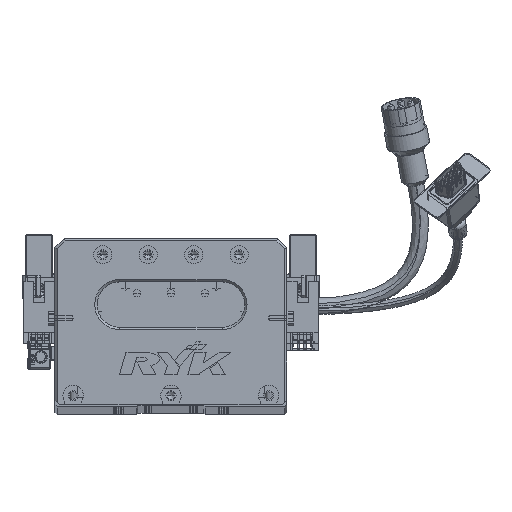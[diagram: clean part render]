
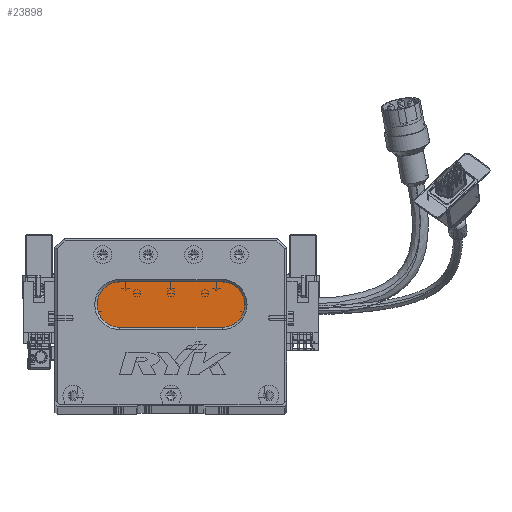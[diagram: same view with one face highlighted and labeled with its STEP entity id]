
A CAD part, top view. The second image highlights one B-rep face of the part: STEP entity #23898.
In plain terms, the highlighted planar face has unit normal (0, 0, 1) as drawn and (0, 0, -1) by its records, which use the part's own axes.
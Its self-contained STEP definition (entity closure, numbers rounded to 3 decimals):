
#3739 = EDGE_CURVE ( 'NONE', #49146, #32350, #29752, .T. ) ;
#6179 = ORIENTED_EDGE ( 'NONE', *, *, #3739, .T. ) ;
#6245 = EDGE_CURVE ( 'NONE', #30905, #29099, #6370, .T. ) ;
#6370 = CIRCLE ( 'NONE', #63617, 10. ) ;
#6638 = ORIENTED_EDGE ( 'NONE', *, *, #6245, .T. ) ;
#7427 = AXIS2_PLACEMENT_3D ( 'NONE', #50648, #68399, #75343 ) ;
#9298 = DIRECTION ( 'NONE',  ( -1., 0., 0. ) ) ;
#9896 = EDGE_CURVE ( 'NONE', #32350, #30905, #28975, .T. ) ;
#11361 = EDGE_CURVE ( 'NONE', #67661, #49146, #59414, .T. ) ;
#11887 = EDGE_LOOP ( 'NONE', ( #36546, #6179, #22422, #6638, #26573 ) ) ;
#15764 = DIRECTION ( 'NONE',  ( 1., 0., 0. ) ) ;
#17783 = FACE_OUTER_BOUND ( 'NONE', #11887, .T. ) ;
#18882 = CARTESIAN_POINT ( 'NONE',  ( 73.5, 44., 13. ) ) ;
#19032 = AXIS2_PLACEMENT_3D ( 'NONE', #18882, #49866, #74013 ) ;
#22422 = ORIENTED_EDGE ( 'NONE', *, *, #9896, .T. ) ;
#23898 = ADVANCED_FACE ( 'NONE', ( #17783 ), #56564, .T. ) ;
#25674 = LINE ( 'NONE', #78162, #72771 ) ;
#26573 = ORIENTED_EDGE ( 'NONE', *, *, #56658, .T. ) ;
#28975 = CIRCLE ( 'NONE', #76635, 10. ) ;
#29099 = VERTEX_POINT ( 'NONE', #68546 ) ;
#29752 = LINE ( 'NONE', #51622, #50952 ) ;
#30259 = DIRECTION ( 'NONE',  ( -1., 0., 0. ) ) ;
#30905 = VERTEX_POINT ( 'NONE', #37647 ) ;
#32350 = VERTEX_POINT ( 'NONE', #35593 ) ;
#33280 = DIRECTION ( 'NONE',  ( -1., 0., 0. ) ) ;
#35593 = CARTESIAN_POINT ( 'NONE',  ( 28.5, 34., 13. ) ) ;
#36546 = ORIENTED_EDGE ( 'NONE', *, *, #11361, .T. ) ;
#37647 = CARTESIAN_POINT ( 'NONE',  ( 18.5, 44., 13. ) ) ;
#49146 = VERTEX_POINT ( 'NONE', #59169 ) ;
#49866 = DIRECTION ( 'NONE',  ( 0., 0., -1. ) ) ;
#50648 = CARTESIAN_POINT ( 'NONE',  ( 73.5, 44., 13. ) ) ;
#50952 = VECTOR ( 'NONE', #33280, 1000. ) ;
#51537 = DIRECTION ( 'NONE',  ( 0., 0., -1. ) ) ;
#51622 = CARTESIAN_POINT ( 'NONE',  ( 73.5, 34., 13. ) ) ;
#56564 = PLANE ( 'NONE',  #7427 ) ;
#56658 = EDGE_CURVE ( 'NONE', #29099, #67661, #25674, .T. ) ;
#58491 = CARTESIAN_POINT ( 'NONE',  ( 73.5, 54., 13. ) ) ;
#59169 = CARTESIAN_POINT ( 'NONE',  ( 73.5, 34., 13. ) ) ;
#59414 = CIRCLE ( 'NONE', #19032, 10. ) ;
#60945 = CARTESIAN_POINT ( 'NONE',  ( 28.5, 44., 13. ) ) ;
#63617 = AXIS2_PLACEMENT_3D ( 'NONE', #60945, #73002, #30259 ) ;
#67661 = VERTEX_POINT ( 'NONE', #58491 ) ;
#68399 = DIRECTION ( 'NONE',  ( 0., 0., -1. ) ) ;
#68546 = CARTESIAN_POINT ( 'NONE',  ( 28.5, 54., 13. ) ) ;
#69791 = CARTESIAN_POINT ( 'NONE',  ( 28.5, 44., 13. ) ) ;
#72771 = VECTOR ( 'NONE', #15764, 1000. ) ;
#73002 = DIRECTION ( 'NONE',  ( 0., 0., -1. ) ) ;
#74013 = DIRECTION ( 'NONE',  ( -1., 0., 0. ) ) ;
#75343 = DIRECTION ( 'NONE',  ( -1., 0., 0. ) ) ;
#76635 = AXIS2_PLACEMENT_3D ( 'NONE', #69791, #51537, #9298 ) ;
#78162 = CARTESIAN_POINT ( 'NONE',  ( 73.5, 54., 13. ) ) ;
